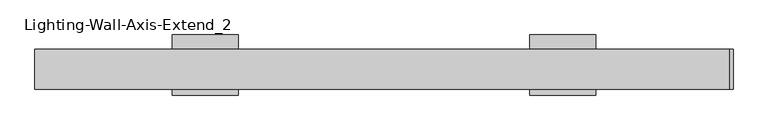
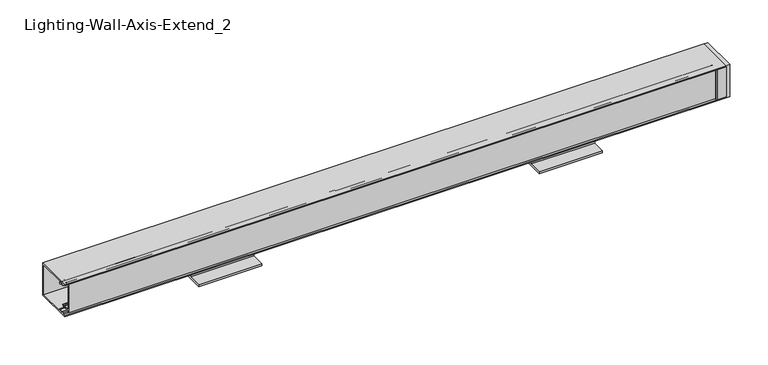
"""IFC4 building model written with IfcOpenShell, lengths in millimetres: light fixture geometry, Lighting-Wall-Axis-Extend_2 : EX2WD-900-80-35-SO-4."""

from ifc_helpers import new_model, si_unit, point, frame, frame_2d, origin, place, context, project, spatial, polyline, circle_curve, trimmed, segment, composite_curve, outline, extrude, source, transform, mapped, element, save


def lighting_wall_axis_extend_2_fdb779e1(model_context):
    return source(origin(), model_context, "Body", "SweptSolid", [
        extrude(outline(polyline([(14.6177, 19.05), (71.4375, 19.05), (71.4375, 3.9878), (96.8375335, 3.9878), (96.8375335, 0.0), (-10.7823335, 0.0), (-10.7823335, 3.9878), (14.6177, 3.9878), (14.6177, 19.05)])), frame((266.78636, 0.0, 0.0), z_axis=(1.0, 0.0, 0.0), x_axis=(0.0, 1.0, 0.0)), (0.0, 0.0, 1.0), 118.69928),
        extrude(outline(polyline([(14.6177, 19.05), (71.4375, 19.05), (71.4375, 3.9878), (96.8375335, 3.9878), (96.8375335, 0.0), (-10.7823335, 0.0), (-10.7823335, 3.9878), (14.6177, 3.9878), (14.6177, 19.05)])), frame((-373.30634, 0.0, 0.0), z_axis=(1.0, 0.0, 0.0), x_axis=(0.0, 1.0, 0.0)), (0.0, 0.0, 1.0), 118.69928),
        extrude(outline(polyline([(606.2726, 1.1017139), (606.2726, 2.57175), (607.06635, 2.57175), (607.06635, 1.778), (613.918, 1.778), (613.918, 4.5842019), (624.586, 4.5842019), (624.586, 0.0), (607.1971437, 0.0), (606.2726, 1.1017139)])), frame((0.0, 0.0, 21.082), z_axis=(0.0, 0.0, 1.0), x_axis=(1.0, 0.0, 0.0)), (0.0, 0.0, 1.0), 59.944),
        extrude(outline(polyline([(624.586, 0.0), (624.586, 71.4375), (630.936, 71.4375), (630.936, 0.0), (624.586, 0.0)])), frame((0.0, 0.0, 19.05), z_axis=(0.0, 0.0, 1.0), x_axis=(1.0, 0.0, 0.0)), (0.0, 0.0, 1.0), 64.008),
        extrude(outline(composite_curve([segment(polyline([(4.8895009, 75.2267262), (4.8895009, 26.8812738), (11.3521263, 26.5425819)]), True, "CONTINUOUS"), segment(trimmed(circle_curve(frame_2d((14.351, 23.7998)), 4.064), [point((11.3521263, 26.5425819))], [point((17.9580097, 25.6721186))], False, "CARTESIAN"), True, "CONTINUOUS"), segment(trimmed(circle_curve(frame_2d((17.1691543, 28.904656)), 3.3274001), [point((17.9580097, 25.6721186))], [point((19.4557425, 26.4874044))], True, "CARTESIAN"), True, "CONTINUOUS"), segment(trimmed(circle_curve(frame_2d((12.4214292, 33.9236823)), 10.2362001), [point((19.4557425, 26.4874044))], [point((20.6551445, 27.8420934))], True, "CARTESIAN"), True, "CONTINUOUS"), segment(trimmed(circle_curve(frame_2d((21.3191538, 27.3516427)), 0.8255), [point((20.6551445, 27.8420934))], [point((21.9831631, 26.861192))], False, "CARTESIAN"), True, "CONTINUOUS"), segment(trimmed(circle_curve(frame_2d((12.4214283, 33.9236831)), 11.8872013), [point((21.9831631, 26.861192))], [point((20.5903092, 25.2880048))], False, "CARTESIAN"), True, "CONTINUOUS"), segment(trimmed(circle_curve(frame_2d((17.1691543, 28.904656)), 4.9784001), [point((20.5903092, 25.2880048))], [point((16.75974, 23.9431193))], False, "CARTESIAN"), True, "CONTINUOUS"), segment(trimmed(circle_curve(frame_2d((14.351, 23.7998)), 2.413), [point((16.75974, 23.9431193))], [point((12.7205342, 25.5786059))], True, "CARTESIAN"), True, "CONTINUOUS"), segment(trimmed(circle_curve(frame_2d((11.0042544, 27.4510331)), 2.54), [point((12.7205342, 25.5786059))], [point((10.8713211, 24.9145141))], False, "CARTESIAN"), True, "CONTINUOUS"), segment(polyline([(10.8713211, 24.9145141), (4.8895009, 25.228008), (4.8895009, 22.225), (2.9845, 22.225), (2.9845, 79.883), (4.8895009, 79.883), (4.8895009, 76.879992), (10.8713211, 77.1934859)]), True, "CONTINUOUS"), segment(trimmed(circle_curve(frame_2d((11.0042544, 74.6569669)), 2.54), [point((10.8713211, 77.1934859))], [point((12.7205342, 76.5293941))], False, "CARTESIAN"), True, "CONTINUOUS"), segment(trimmed(circle_curve(frame_2d((14.351, 78.3082)), 2.413), [point((12.7205342, 76.5293941))], [point((16.75974, 78.1648807))], True, "CARTESIAN"), True, "CONTINUOUS"), segment(trimmed(circle_curve(frame_2d((17.1691543, 73.203344)), 4.9784001), [point((16.75974, 78.1648807))], [point((20.5903092, 76.8199952))], False, "CARTESIAN"), True, "CONTINUOUS"), segment(trimmed(circle_curve(frame_2d((12.4214283, 68.1843169)), 11.8872013), [point((20.5903092, 76.8199952))], [point((21.9831631, 75.246808))], False, "CARTESIAN"), True, "CONTINUOUS"), segment(trimmed(circle_curve(frame_2d((21.3191538, 74.7563573)), 0.8255), [point((21.9831631, 75.246808))], [point((20.6551445, 74.2659066))], False, "CARTESIAN"), True, "CONTINUOUS"), segment(trimmed(circle_curve(frame_2d((12.4214292, 68.1843177)), 10.2362001), [point((20.6551445, 74.2659066))], [point((19.4557425, 75.6205956))], True, "CARTESIAN"), True, "CONTINUOUS"), segment(trimmed(circle_curve(frame_2d((17.1691543, 73.203344)), 3.3274001), [point((19.4557425, 75.6205956))], [point((17.9580097, 76.4358814))], True, "CARTESIAN"), True, "CONTINUOUS"), segment(trimmed(circle_curve(frame_2d((14.351, 78.3082)), 4.064), [point((17.9580097, 76.4358814))], [point((11.3521263, 75.5654181))], False, "CARTESIAN"), True, "CONTINUOUS"), segment(polyline([(11.3521263, 75.5654181), (4.8895009, 75.2267262)]), True, "CONTINUOUS")], self_intersect=False)), frame((-609.6, 0.0, 0.0), z_axis=(1.0, 0.0, 0.0), x_axis=(0.0, 1.0, 0.0)), (0.0, 0.0, 1.0), 1219.2),
        extrude(outline(composite_curve([segment(polyline([(14.9098, 81.026), (14.9098, 79.1865797)]), True, "CONTINUOUS"), segment(trimmed(circle_curve(frame_2d((14.9098, 77.6802297)), 1.5063501), [point((14.9098, 79.1865797))], [point((16.2143374, 76.9270546))], False, "CARTESIAN"), True, "CONTINUOUS"), segment(trimmed(circle_curve(frame_2d((14.1511921, 78.1182121)), 2.382315), [point((16.2143374, 76.9270546))], [point((13.9591318, 75.7436516))], False, "CARTESIAN"), True, "CONTINUOUS"), segment(polyline([(13.9591318, 75.7436516), (11.1252, 79.121), (12.8778, 79.121), (12.8778, 81.026), (6.35, 81.026), (6.35, 79.121), (7.874, 79.121), (7.7874748, 77.47), (5.08, 77.47), (5.08, 81.026), (0.0, 81.026), (0.0, 83.058), (71.4375, 83.058), (71.4375, 19.05), (0.0, 19.05), (0.0, 21.082), (5.08, 21.082), (5.08, 24.638), (7.7874748, 24.638), (7.874, 22.987), (6.35, 22.987), (6.35, 21.082), (12.8778, 21.082), (12.8778, 22.987), (11.1252, 22.987), (13.9591318, 26.3643484)]), True, "CONTINUOUS"), segment(trimmed(circle_curve(frame_2d((14.1511921, 23.9897879)), 2.382315), [point((13.9591318, 26.3643484))], [point((16.2143374, 25.1809454))], False, "CARTESIAN"), True, "CONTINUOUS"), segment(trimmed(circle_curve(frame_2d((14.9098, 24.4277703)), 1.5063501), [point((16.2143374, 25.1809454))], [point((14.9098, 22.9214203))], False, "CARTESIAN"), True, "CONTINUOUS"), segment(polyline([(14.9098, 22.9214203), (14.9098, 21.082), (69.4055, 21.082), (69.4055, 81.026), (14.9098, 81.026)]), True, "CONTINUOUS")], self_intersect=False)), frame((-618.7567, 0.0, 0.0), z_axis=(1.0, 0.0, 0.0), x_axis=(0.0, 1.0, 0.0)), (0.0, 0.0, 1.0), 1243.3427),
    ])


if __name__ == "__main__":
    model = new_model("IFC4")
    model_context = context("Model", 3, world=origin())
    ifc_project = project(units=[si_unit("LENGTHUNIT", "METRE", prefix="MILLI")], contexts=[model_context])
    site = spatial("IfcSite", under=ifc_project)
    building = spatial("IfcBuilding", under=site)
    placement = place(None, origin())
    lighting_wall_axis_extend_2_shape = lighting_wall_axis_extend_2_fdb779e1(model_context)
    element("IfcLightFixture", 1, ObjectType="Lighting-Wall-Axis-Extend_2 : EX2WD-900-80-35-SO-4", at=placement, inside=building, context=model_context, shape_type="MappedRepresentation", body=[
        mapped(lighting_wall_axis_extend_2_shape, transform((0.0, 0.0, 0.0), x_axis=(1.0, 0.0, 0.0), y_axis=(0.0, 1.0, 0.0), z_axis=(0.0, 0.0, 1.0))),
    ])
    save(model, "model.ifc")
